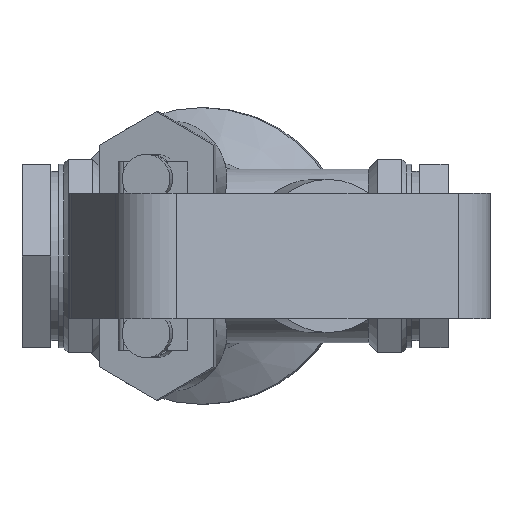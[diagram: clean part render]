
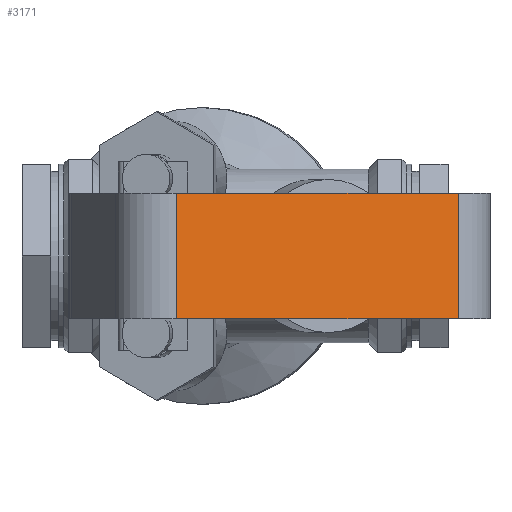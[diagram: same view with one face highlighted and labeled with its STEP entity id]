
A CAD part, front view. The second image highlights one B-rep face of the part: STEP entity #3171.
In plain terms, the highlighted planar face has unit normal (0.342, -0.94, 0).
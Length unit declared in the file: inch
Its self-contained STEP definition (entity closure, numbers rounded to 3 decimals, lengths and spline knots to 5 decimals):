
#112=PLANE('',#3507);
#253=FACE_OUTER_BOUND('',#437,.T.);
#437=EDGE_LOOP('',(#2226,#2227,#2228,#2229));
#630=LINE('',#5225,#881);
#637=LINE('',#5277,#888);
#638=LINE('',#5280,#889);
#639=LINE('',#5281,#890);
#881=VECTOR('',#3985,0.3937);
#888=VECTOR('',#4024,0.3937);
#889=VECTOR('',#4027,0.3937);
#890=VECTOR('',#4028,0.3937);
#1355=VERTEX_POINT('',#5222);
#1356=VERTEX_POINT('',#5224);
#1369=VERTEX_POINT('',#5275);
#1370=VERTEX_POINT('',#5279);
#1685=EDGE_CURVE('',#1355,#1356,#630,.T.);
#1704=EDGE_CURVE('',#1369,#1355,#637,.T.);
#1705=EDGE_CURVE('',#1370,#1369,#638,.T.);
#1706=EDGE_CURVE('',#1370,#1356,#639,.T.);
#2226=ORIENTED_EDGE('',*,*,#1704,.F.);
#2227=ORIENTED_EDGE('',*,*,#1705,.F.);
#2228=ORIENTED_EDGE('',*,*,#1706,.T.);
#2229=ORIENTED_EDGE('',*,*,#1685,.F.);
#3171=ADVANCED_FACE('',(#253),#112,.T.);
#3507=AXIS2_PLACEMENT_3D('',#5278,#4025,#4026);
#3985=DIRECTION('',(-0.94,-0.342,0.));
#4024=DIRECTION('',(0.,0.,-1.));
#4025=DIRECTION('center_axis',(0.342,-0.94,0.));
#4026=DIRECTION('ref_axis',(0.94,0.342,0.));
#4027=DIRECTION('',(0.94,0.342,0.));
#4028=DIRECTION('',(0.,0.,-1.));
#5222=CARTESIAN_POINT('',(2.30862,-4.15894,-0.65));
#5224=CARTESIAN_POINT('',(-0.6062,-5.21985,-0.65));
#5225=CARTESIAN_POINT('',(2.30862,-4.15894,-0.65));
#5275=CARTESIAN_POINT('',(2.30862,-4.15894,0.65));
#5277=CARTESIAN_POINT('',(2.30862,-4.15894,0.));
#5278=CARTESIAN_POINT('Origin',(-0.6062,-5.21985,0.));
#5279=CARTESIAN_POINT('',(-0.6062,-5.21985,0.65));
#5280=CARTESIAN_POINT('',(2.30862,-4.15894,0.65));
#5281=CARTESIAN_POINT('',(-0.6062,-5.21985,0.));
